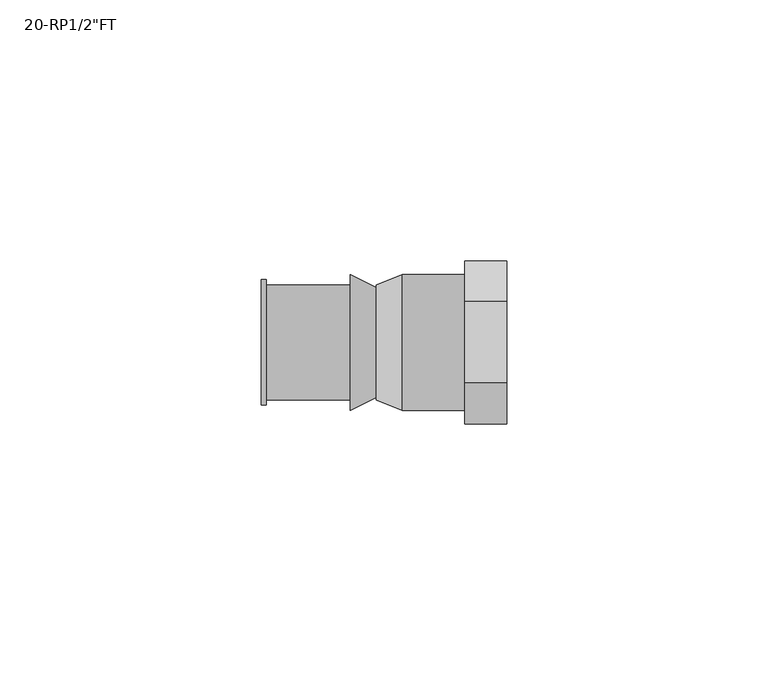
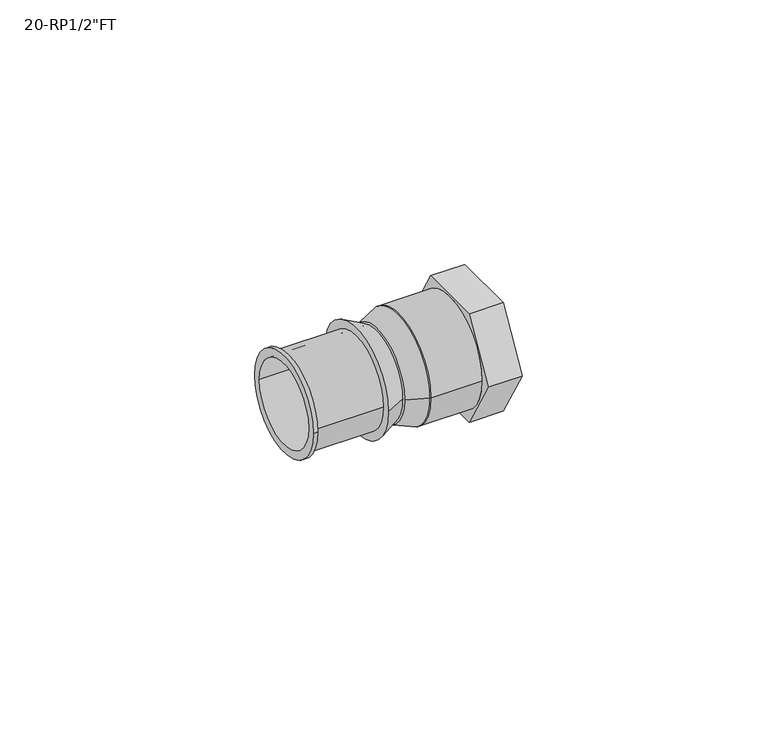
"""IFC4 building model written with IfcOpenShell, lengths in millimetres: pipe fitting geometry."""

import ifcopenshell
import ifcopenshell.guid

model = None  # the IFC model being written
_history = None  # IfcOwnerHistory: only IFC2X3 demands one
_inside = {}  # id of a spatial element -> (the spatial element, [elements in it])
_under = {}  # id of a project, library or spatial element -> (it, [spatial elements below it])
_declared = {}  # id of a project -> (the project, [libraries it declares])
_typed = {}  # id of a type object -> (the type object, [elements of that type])
_made_of = {}  # id of a material, layer set ... -> (it, [elements and type objects made of it])


def new_model(schema):
    """Start an empty IFC model of exactly this schema.

    Asked for "IFC4X3", IfcOpenShell would pick the latest addendum, in which some entities
    have other attributes; the version numbers below select the first issue.
    IFC2X3 requires an IfcOwnerHistory on every rooted entity: one is made here for all.
    """
    global model, _history
    if schema == "IFC4X3":
        model = ifcopenshell.file(schema_version=(4, 3, 0, 0))
    else:
        model = ifcopenshell.file(schema=schema)
    _inside.clear()
    _under.clear()
    _declared.clear()
    _typed.clear()
    _made_of.clear()
    _history = None
    if model.schema == "IFC2X3":
        org = make("IfcOrganization", Name="unknown")
        user = make(
            "IfcPersonAndOrganization",
            ThePerson=make("IfcPerson", FamilyName="unknown"),
            TheOrganization=org,
        )
        app = make(
            "IfcApplication",
            ApplicationDeveloper=org,
            Version="unknown",
            ApplicationFullName="unknown",
            ApplicationIdentifier="unknown",
        )
        _history = make(
            "IfcOwnerHistory",
            OwningUser=user,
            OwningApplication=app,
            ChangeAction="ADDED",
            CreationDate=0,
        )
    return model


def make(cls, **values):
    """One entity of the class cls with the attributes given. An attribute that is None is left unset."""
    return model.create_entity(
        cls, **{name: value for name, value in values.items() if value is not None}
    )


def rooted(cls, **values):
    """An entity with a GlobalId (a new one), such as an element, a storey or a relation."""
    return make(cls, GlobalId=ifcopenshell.guid.new(), OwnerHistory=_history, **values)


def si_unit(unit_type, name, prefix=None):
    """IfcSIUnit, for example si_unit("LENGTHUNIT", "METRE", prefix="MILLI")."""
    return make("IfcSIUnit", UnitType=unit_type, Prefix=prefix, Name=name)


def assignment(units):
    """IfcUnitAssignment: the units of a project."""
    return None if units is None else make("IfcUnitAssignment", Units=units)


def point(xyz):
    """IfcCartesianPoint."""
    return None if xyz is None else make("IfcCartesianPoint", Coordinates=xyz)


def direction(xyz):
    """IfcDirection."""
    return None if xyz is None else make("IfcDirection", DirectionRatios=xyz)


def frame(location, z_axis=None, x_axis=None):
    """IfcAxis2Placement3D, a coordinate frame: its origin and axes. An axis left out is left unset."""
    return make(
        "IfcAxis2Placement3D",
        Location=point(location),
        Axis=direction(z_axis),
        RefDirection=direction(x_axis),
    )


def origin():
    """The frame at (0, 0, 0) with its axes left unset."""
    return frame((0.0, 0.0, 0.0))


def place(relative_to, where):
    """IfcLocalPlacement: puts the frame where relative to a parent placement (None: the world)."""
    return make(
        "IfcLocalPlacement", PlacementRelTo=relative_to, RelativePlacement=where
    )


def context(
    kind, dimensions, precision=None, world=None, true_north=None, identifier=None
):
    """IfcGeometricRepresentationContext, for example the 3D "Model" context."""
    return make(
        "IfcGeometricRepresentationContext",
        ContextIdentifier=identifier,
        ContextType=kind,
        CoordinateSpaceDimension=dimensions,
        Precision=precision,
        WorldCoordinateSystem=world,
        TrueNorth=true_north,
    )


def project(units=None, contexts=None):
    """IfcProject with its units and contexts."""
    return rooted(
        "IfcProject",
        Name="project",
        RepresentationContexts=contexts,
        UnitsInContext=assignment(units),
    )


def spatial(cls, under=None, at=None, **own):
    """A site, building, storey or space (cls), placed at a placement, below another one or the project."""
    s = rooted(cls, ObjectPlacement=at, **own)
    if under is not None:
        _under.setdefault(under.id(), (under, []))[1].append(s)
    return s


def polyline(points):
    """IfcPolyline through the points."""
    return make("IfcPolyline", Points=[point(p) for p in points])


def circle_curve(where, radius):
    """IfcCircle in the frame where."""
    return make("IfcCircle", Position=where, Radius=radius)


def shape(context_of_items, identifier, shape_type, items):
    """IfcShapeRepresentation: the items that make up one representation, for example the "Body"."""
    return make(
        "IfcShapeRepresentation",
        ContextOfItems=context_of_items,
        RepresentationIdentifier=identifier,
        RepresentationType=shape_type,
        Items=items,
    )


def source(mapping_origin, context_of_items, identifier, shape_type, items):
    """IfcRepresentationMap: a shape defined once, which mapped items show again and again."""
    return make(
        "IfcRepresentationMap",
        MappingOrigin=mapping_origin,
        MappedRepresentation=shape(context_of_items, identifier, shape_type, items),
    )


def transform(
    local_origin,
    x_axis=None,
    y_axis=None,
    z_axis=None,
    scale=None,
    scale2=None,
    scale3=None,
    uniform=True,
):
    """IfcCartesianTransformationOperator3D, or its non-uniform kind. x_axis, y_axis, z_axis: its Axis1, 2, 3."""
    if uniform:
        return make(
            "IfcCartesianTransformationOperator3D",
            Axis1=direction(x_axis),
            Axis2=direction(y_axis),
            LocalOrigin=point(local_origin),
            Scale=scale,
            Axis3=direction(z_axis),
        )
    return make(
        "IfcCartesianTransformationOperator3DnonUniform",
        Axis1=direction(x_axis),
        Axis2=direction(y_axis),
        LocalOrigin=point(local_origin),
        Scale=scale,
        Axis3=direction(z_axis),
        Scale2=scale2,
        Scale3=scale3,
    )


def mapped(mapping_source, mapping_target):
    """IfcMappedItem: shows the shape of a source again, moved by a transform."""
    return make(
        "IfcMappedItem", MappingSource=mapping_source, MappingTarget=mapping_target
    )


def made_of(thing, what):
    """Note that an element or type object is made of a material, layer set ...; save() writes the relation."""
    if what is not None:
        _made_of.setdefault(what.id(), (what, []))[1].append(thing)
    return thing


def element(
    cls,
    number,
    at=None,
    inside=None,
    cuts=None,
    type_object=None,
    material=None,
    context=None,
    identifier="Body",
    shape_type=None,
    held_by="IfcProductDefinitionShape",
    body=None,
    shapes=None,
    **own,
):
    """One element of the class cls, such as IfcWall. Its Tag is "e" and its number.

    at: its placement. inside: the storey or other place that contains it. cuts: it is an
    opening in that element (IfcRelVoidsElement). A single representation is given by context,
    identifier, shape_type and body (its items); several are given by shapes. held_by: the class
    of the entity that holds the representations. save() writes the other relations.
    """
    e = rooted(cls, Tag="e%d" % number, ObjectPlacement=at, **own)
    if body is not None:
        shapes = [shape(context, identifier, shape_type, body)]
    if shapes is not None:
        e.Representation = make(held_by, Representations=shapes)
    if inside is not None:
        _inside.setdefault(inside.id(), (inside, []))[1].append(e)
    if cuts is not None:
        rooted(
            "IfcRelVoidsElement", RelatingBuildingElement=cuts, RelatedOpeningElement=e
        )
    if type_object is not None:
        _typed.setdefault(type_object.id(), (type_object, []))[1].append(e)
    return made_of(e, material)


def aggregate(whole, parts):
    """IfcRelAggregates: a whole, such as a stair, and the parts it consists of."""
    return rooted("IfcRelAggregates", RelatingObject=whole, RelatedObjects=parts)


def save(model, path):
    """Write the relations noted so far, then the file.

    IfcRelAggregates (storeys below a building ...), IfcRelContainedInSpatialStructure (elements
    in a storey), IfcRelDefinesByType, IfcRelAssociatesMaterial and IfcRelDeclares: one each for
    every whole, place, type object, material and project.
    """
    for whole, parts in _under.values():
        aggregate(whole, parts)
    for where, things in _inside.values():
        rooted(
            "IfcRelContainedInSpatialStructure",
            RelatedElements=things,
            RelatingStructure=where,
        )
    for kind, things in _typed.values():
        rooted("IfcRelDefinesByType", RelatedObjects=things, RelatingType=kind)
    for what, things in _made_of.values():
        rooted("IfcRelAssociatesMaterial", RelatedObjects=things, RelatingMaterial=what)
    for by, libraries in _declared.values():
        rooted("IfcRelDeclares", RelatingContext=by, RelatedDefinitions=libraries)
    model.write(path)


def plane_surface(at):
    """IfcPlane: the flat surface through the origin of the frame at, square to its z axis."""
    return make("IfcPlane", Position=at)


def cylinder_surface(at, radius):
    """IfcCylindricalSurface: all points at the distance radius from the z axis of the frame at."""
    return make("IfcCylindricalSurface", Position=at, Radius=radius)


def revolved_surface(curve, axis_point, axis_direction):
    """IfcSurfaceOfRevolution: the curve turned about the line through axis_point along axis_direction."""
    return make(
        "IfcSurfaceOfRevolution",
        SweptCurve=make("IfcArbitraryOpenProfileDef", ProfileType="CURVE", Curve=curve),
        AxisPosition=make("IfcAxis1Placement", Location=point(axis_point), Axis=direction(axis_direction)),
    )


def advanced_brep(points, edges, surfaces, faces):
    """IfcAdvancedBrep: a solid bounded by faces that lie on surfaces and meet in shared edges.

    An edge is (start, end): straight between two places in points (the first is 0);
    or (start, end, curve); or (start, end, curve, False) where it runs against its curve.
    A face is (place in surfaces, loops), or (place, loops, False) where it looks against
    its surface's normal. A loop lists edges by number (the first is 1), with a minus sign
    where the edge is run from its end to its start. The first loop is the outer one.
    """
    corners = [point(p) for p in points]
    vertices = [make("IfcVertexPoint", VertexGeometry=c) for c in corners]
    made = []
    for start, end, *more in edges:
        made.append(
            make(
                "IfcEdgeCurve",
                EdgeStart=vertices[start],
                EdgeEnd=vertices[end],
                EdgeGeometry=more[0] if more else make("IfcPolyline", Points=[corners[start], corners[end]]),
                SameSense=more[1] if len(more) > 1 else True,
            )
        )
    hull = []
    for where, loops, *sense in faces:
        bounds = []
        for j, loop in enumerate(loops):
            ring = [make("IfcOrientedEdge", EdgeElement=made[abs(k) - 1], Orientation=k > 0) for k in loop]
            bounds.append(
                make(
                    "IfcFaceOuterBound" if j == 0 else "IfcFaceBound",
                    Bound=make("IfcEdgeLoop", EdgeList=ring),
                    Orientation=True,
                )
            )
        hull.append(make("IfcAdvancedFace", Bounds=bounds, FaceSurface=surfaces[where], SameSense=sense[0] if sense else True))
    return make("IfcAdvancedBrep", Outer=make("IfcClosedShell", CfsFaces=hull))


def pipe_fitting_b4bb1536(model_context):
    return source(origin(), model_context, "Body", "AdvancedBrep", [
        advanced_brep(
        [(1.0, -13.0, 0.0), (1.0, 13.0, 0.0), (1.0, -9.0, 0.0), (1.0, 9.0, 0.0), (21.0, -15.5884573, 0.0), (21.0, -7.7942286, -13.5), (21.0, 7.7942286, -13.5), (21.0, 15.5884573, 0.0), (21.0, 7.7942286, 13.5), (21.0, -7.7942286, 13.5), (21.0, -9.0, 0.0), (21.0, 9.0, 0.0), (13.0, -13.0, 0.0), (13.0, 13.0, 0.0), (13.0, -9.0, 0.0), (13.0, 9.0, 0.0), (13.0, -15.5884573, 0.0), (13.0, -7.7942286, 13.5), (13.0, 7.7942286, 13.5), (13.0, 15.5884573, 0.0), (13.0, 7.7942286, -13.5), (13.0, -7.7942286, -13.5)],
        [
            (0, 1, circle_curve(frame((1.0, 0.0, 0.0), z_axis=(-1.0, 0.0, 0.0), x_axis=(0.0, 1.0, 0.0)), 13.0)),
            (1, 0, circle_curve(frame((1.0, 0.0, 0.0), z_axis=(-1.0, 0.0, 0.0), x_axis=(0.0, 1.0, 0.0)), 13.0)),
            (2, 3, circle_curve(frame((1.0, 0.0, 0.0), z_axis=(1.0, 0.0, 0.0), x_axis=(0.0, 1.0, 0.0)), 9.0)),
            (3, 2, circle_curve(frame((1.0, 0.0, 0.0), z_axis=(1.0, 0.0, 0.0), x_axis=(0.0, 1.0, 0.0)), 9.0)),
            (4, 5),
            (5, 6),
            (6, 7),
            (7, 8),
            (8, 9),
            (9, 4),
            (10, 11, circle_curve(frame((21.0, 0.0, 0.0), z_axis=(-1.0, 0.0, 0.0), x_axis=(0.0, 1.0, 0.0)), 9.0)),
            (11, 10, circle_curve(frame((21.0, 0.0, 0.0), z_axis=(-1.0, 0.0, 0.0), x_axis=(0.0, 1.0, 0.0)), 9.0)),
            (0, 12),
            (12, 13, circle_curve(frame((13.0, 0.0, 0.0), z_axis=(-1.0, 0.0, 0.0), x_axis=(0.0, 1.0, 0.0)), 13.0)),
            (13, 1),
            (13, 12, circle_curve(frame((13.0, 0.0, 0.0), z_axis=(-1.0, 0.0, 0.0), x_axis=(0.0, 1.0, 0.0)), 13.0)),
            (2, 14),
            (14, 10),
            (11, 15),
            (15, 3),
            (16, 17),
            (17, 18),
            (18, 19),
            (19, 20),
            (20, 21),
            (21, 16),
            (16, 4),
            (9, 17),
            (8, 18),
            (7, 19),
            (6, 20),
            (5, 21),
        ],
        [
            plane_surface(frame((1.0, 0.0, 0.0), z_axis=(-1.0, 0.0, 0.0), x_axis=(0.0, 0.0, 1.0))),
            plane_surface(frame((21.0, 0.0, 0.0), z_axis=(1.0, 0.0, 0.0), x_axis=(0.0, 0.0, 1.0))),
            cylinder_surface(frame((1.0, 0.0, 0.0), z_axis=(-1.0, 0.0, 0.0), x_axis=(0.0, 1.0, 0.0)), 13.0),
            revolved_surface(polyline([(21.0, 9.0, 0.0), (1.0, 9.0, 0.0)]), (1.0, 0.0, 0.0), (1.0, 0.0, 0.0)),
            plane_surface(frame((13.0, 0.0, 0.0), z_axis=(-1.0, 0.0, 0.0), x_axis=(0.0, 0.0, 1.0))),
            plane_surface(frame((13.0, -15.5884573, 0.0), z_axis=(0.0, -0.866025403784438, 0.5000000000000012), x_axis=(1.0, 0.0, 0.0))),
            plane_surface(frame((13.0, -7.7942286, 13.5), z_axis=(0.0, 0.0, 1.0), x_axis=(1.0, 0.0, 0.0))),
            plane_surface(frame((13.0, 7.7942286, 13.5), z_axis=(0.0, 0.8660254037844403, 0.4999999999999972), x_axis=(1.0, 0.0, 0.0))),
            plane_surface(frame((13.0, 15.5884573, 0.0), z_axis=(0.0, 0.8660254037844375, -0.500000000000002), x_axis=(1.0, 0.0, 0.0))),
            plane_surface(frame((13.0, 7.7942286, -13.5), z_axis=(0.0, 0.0, -1.0), x_axis=(1.0, 0.0, 0.0))),
            plane_surface(frame((13.0, -7.7942286, -13.5), z_axis=(0.0, -0.8660254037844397, -0.4999999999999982), x_axis=(1.0, 0.0, 0.0))),
        ],
        [
            (0, [[1, 2], [3, 4]]),
            (1, [[5, 6, 7, 8, 9, 10], [11, 12]]),
            (2, [[-1, 13, 14, 15]]),
            (2, [[-2, -15, 16, -13]]),
            (3, [[-3, 17, 18, -12, 19, 20]]),
            (3, [[-4, -20, -19, -11, -18, -17]]),
            (4, [[21, 22, 23, 24, 25, 26], [-14, -16]]),
            (5, [[-21, 27, -10, 28]]),
            (6, [[-22, -28, -9, 29]]),
            (7, [[-23, -29, -8, 30]]),
            (8, [[-24, -30, -7, 31]]),
            (9, [[-25, -31, -6, 32]]),
            (10, [[-26, -32, -5, -27]]),
        ],
    ),
        advanced_brep(
        [(1.0, -13.0, 0.0), (1.0, 13.0, 0.0), (-4.0, -11.0, 0.0), (-4.0, 11.0, 0.0)],
        [
            (0, 1, circle_curve(frame((1.0, 0.0, 0.0), z_axis=(1.0, 0.0, 0.0), x_axis=(0.0, -1.0, 0.0)), 13.0)),
            (1, 0, circle_curve(frame((1.0, 0.0, 0.0), z_axis=(1.0, 0.0, 0.0), x_axis=(0.0, 1.0, 0.0)), 13.0)),
            (2, 3, circle_curve(frame((-4.0, 0.0, 0.0), z_axis=(-1.0, 0.0, 0.0), x_axis=(0.0, 1.0, 0.0)), 11.0)),
            (3, 2, circle_curve(frame((-4.0, 0.0, 0.0), z_axis=(-1.0, 0.0, 0.0), x_axis=(0.0, -1.0, 0.0)), 11.0)),
            (3, 1),
            (0, 2),
        ],
        [
            plane_surface(frame((1.0, 0.0, 0.0), z_axis=(1.0, 0.0, 0.0), x_axis=(0.0, 0.0, -1.0))),
            plane_surface(frame((-4.0, 0.0, 0.0), z_axis=(-1.0, 0.0, 0.0), x_axis=(0.0, 0.0, -1.0))),
            revolved_surface(polyline([(-4.0, 11.0, 0.0), (1.0, 13.0, 0.0)]), (-31.5, 0.0, 0.0), (1.0, 0.0, 0.0)),
            revolved_surface(polyline([(-4.0, -11.0, 0.0), (1.0, -13.0, 0.0)]), (-31.5, 0.0, 0.0), (1.0, 0.0, 0.0)),
        ],
        [
            (0, [[1, 2]]),
            (1, [[3, 4]]),
            (2, [[-4, 5, -1, 6]]),
            (3, [[-3, -6, -2, -5]]),
        ],
    ),
        advanced_brep(
        [(-26.0, -12.0, 0.0), (-26.0, 12.0, 0.0), (-26.0, -10.0, 0.0), (-26.0, 10.0, 0.0), (-9.0, -11.0, 0.0), (-9.0, 11.0, 0.0), (-9.0, -10.0, 0.0), (-9.0, 10.0, 0.0), (-25.0, 11.0, 0.0), (-25.0, -11.0, 0.0), (-25.0, -12.0, 0.0), (-25.0, 12.0, 0.0)],
        [
            (0, 1, circle_curve(frame((-26.0, 0.0, 0.0), z_axis=(-1.0, 0.0, 0.0), x_axis=(0.0, 1.0, 0.0)), 12.0)),
            (1, 0, circle_curve(frame((-26.0, 0.0, 0.0), z_axis=(-1.0, 0.0, 0.0), x_axis=(0.0, 1.0, 0.0)), 12.0)),
            (2, 3, circle_curve(frame((-26.0, 0.0, 0.0), z_axis=(1.0, 0.0, 0.0), x_axis=(0.0, 1.0, 0.0)), 10.0)),
            (3, 2, circle_curve(frame((-26.0, 0.0, 0.0), z_axis=(1.0, 0.0, 0.0), x_axis=(0.0, 1.0, 0.0)), 10.0)),
            (4, 5, circle_curve(frame((-9.0, 0.0, 0.0), z_axis=(1.0, 0.0, 0.0), x_axis=(0.0, 1.0, 0.0)), 11.0)),
            (5, 4, circle_curve(frame((-9.0, 0.0, 0.0), z_axis=(1.0, 0.0, 0.0), x_axis=(0.0, 1.0, 0.0)), 11.0)),
            (6, 7, circle_curve(frame((-9.0, 0.0, 0.0), z_axis=(-1.0, 0.0, 0.0), x_axis=(0.0, 1.0, 0.0)), 10.0)),
            (7, 6, circle_curve(frame((-9.0, 0.0, 0.0), z_axis=(-1.0, 0.0, 0.0), x_axis=(0.0, 1.0, 0.0)), 10.0)),
            (2, 6),
            (7, 3),
            (5, 8),
            (8, 9, circle_curve(frame((-25.0, 0.0, 0.0), z_axis=(1.0, 0.0, 0.0), x_axis=(0.0, 1.0, 0.0)), 11.0)),
            (9, 4),
            (9, 8, circle_curve(frame((-25.0, 0.0, 0.0), z_axis=(1.0, 0.0, 0.0), x_axis=(0.0, 1.0, 0.0)), 11.0)),
            (10, 11, circle_curve(frame((-25.0, 0.0, 0.0), z_axis=(1.0, 0.0, 0.0), x_axis=(0.0, 1.0, 0.0)), 12.0)),
            (11, 10, circle_curve(frame((-25.0, 0.0, 0.0), z_axis=(1.0, 0.0, 0.0), x_axis=(0.0, 1.0, 0.0)), 12.0)),
            (0, 10),
            (11, 1),
        ],
        [
            plane_surface(frame((-26.0, 0.0, 0.0), z_axis=(-1.0, 0.0, 0.0), x_axis=(0.0, 0.0, 1.0))),
            plane_surface(frame((-9.0, 0.0, 0.0), z_axis=(1.0, 0.0, 0.0), x_axis=(0.0, 0.0, 1.0))),
            revolved_surface(polyline([(-9.0, 10.0, 0.0), (-26.0, 10.0, 0.0)]), (-26.0, 0.0, 0.0), (1.0, 0.0, 0.0)),
            cylinder_surface(frame((-26.0, 0.0, 0.0), z_axis=(-1.0, 0.0, 0.0), x_axis=(0.0, 1.0, 0.0)), 11.0),
            plane_surface(frame((-25.0, 0.0, 0.0), z_axis=(1.0, 0.0, 0.0), x_axis=(0.0, 0.0, 1.0))),
            cylinder_surface(frame((-26.0, 0.0, 0.0), z_axis=(-1.0, 0.0, 0.0), x_axis=(0.0, 1.0, 0.0)), 12.0),
        ],
        [
            (0, [[1, 2], [3, 4]]),
            (1, [[5, 6], [7, 8]]),
            (2, [[-3, 9, -8, 10]]),
            (2, [[-4, -10, -7, -9]]),
            (3, [[-6, 11, 12, 13]]),
            (3, [[-5, -13, 14, -11]]),
            (4, [[15, 16], [-12, -14]]),
            (5, [[-1, 17, -16, 18]]),
            (5, [[-2, -18, -15, -17]]),
        ],
    ),
        advanced_brep(
        [(-4.0, -10.5, 0.0), (-4.0, 10.5, 0.0), (-4.0, 10.0, 0.0), (-4.0, -10.0, 0.0), (-9.0, -13.0, 0.0), (-9.0, 13.0, 0.0), (-9.0, -10.0, 0.0), (-9.0, 10.0, 0.0)],
        [
            (0, 1, circle_curve(frame((-4.0, 0.0, 0.0), z_axis=(1.0, 0.0, 0.0), x_axis=(0.0, -1.0, 0.0)), 10.5)),
            (1, 0, circle_curve(frame((-4.0, 0.0, 0.0), z_axis=(1.0, 0.0, 0.0), x_axis=(0.0, 1.0, 0.0)), 10.5)),
            (2, 3, circle_curve(frame((-4.0, 0.0, 0.0), z_axis=(-1.0, 0.0, 0.0), x_axis=(0.0, 1.0, 0.0)), 10.0)),
            (3, 2, circle_curve(frame((-4.0, 0.0, 0.0), z_axis=(-1.0, 0.0, 0.0), x_axis=(0.0, 1.0, 0.0)), 10.0)),
            (4, 5, circle_curve(frame((-9.0, 0.0, 0.0), z_axis=(-1.0, 0.0, 0.0), x_axis=(0.0, 1.0, 0.0)), 13.0)),
            (5, 4, circle_curve(frame((-9.0, 0.0, 0.0), z_axis=(-1.0, 0.0, 0.0), x_axis=(0.0, -1.0, 0.0)), 13.0)),
            (6, 7, circle_curve(frame((-9.0, 0.0, 0.0), z_axis=(1.0, 0.0, 0.0), x_axis=(0.0, 1.0, 0.0)), 10.0)),
            (7, 6, circle_curve(frame((-9.0, 0.0, 0.0), z_axis=(1.0, 0.0, 0.0), x_axis=(0.0, 1.0, 0.0)), 10.0)),
            (0, 4),
            (5, 1),
            (2, 7),
            (6, 3),
        ],
        [
            plane_surface(frame((-4.0, 0.0, 0.0), z_axis=(1.0, 0.0, 0.0), x_axis=(0.0, 0.0, -1.0))),
            plane_surface(frame((-9.0, 0.0, 0.0), z_axis=(-1.0, 0.0, 0.0), x_axis=(0.0, 0.0, -1.0))),
            revolved_surface(polyline([(-4.0, -10.5, 0.0), (-9.0, -13.0, 0.0)]), (17.0, 0.0, 0.0), (-1.0, 0.0, 0.0)),
            revolved_surface(polyline([(-4.0, 10.5, 0.0), (-9.0, 13.0, 0.0)]), (17.0, 0.0, 0.0), (-1.0, 0.0, 0.0)),
            revolved_surface(polyline([(-4.0, 10.0, 0.0), (-9.0, 10.0, 0.0)]), (-9.0, 0.0, 0.0), (1.0, 0.0, 0.0)),
        ],
        [
            (0, [[1, 2], [3, 4]]),
            (1, [[5, 6], [7, 8]]),
            (2, [[-1, 9, -6, 10]]),
            (3, [[-2, -10, -5, -9]]),
            (4, [[11, -7, 12, -3]]),
            (4, [[-11, -4, -12, -8]]),
        ],
    ),
    ])


if __name__ == "__main__":
    model = new_model("IFC4")
    model_context = context("Model", 3, world=origin())
    ifc_project = project(units=[si_unit("LENGTHUNIT", "METRE", prefix="MILLI")], contexts=[model_context])
    site = spatial("IfcSite", under=ifc_project)
    building = spatial("IfcBuilding", under=site)
    placement = place(None, origin())
    pipe_fitting_shape = pipe_fitting_b4bb1536(model_context)
    element("IfcPipeFitting", 1, ObjectType="SuperPipe_AdapterFT_MAX_RP : 20-RP1/2\"FT", at=placement, inside=building, context=model_context, shape_type="MappedRepresentation", body=[
        mapped(pipe_fitting_shape, transform((0.0, 0.0, 0.0), x_axis=(1.0, 0.0, 0.0), y_axis=(0.0, 1.0, 0.0), z_axis=(0.0, 0.0, 1.0))),
    ])
    save(model, "model.ifc")
